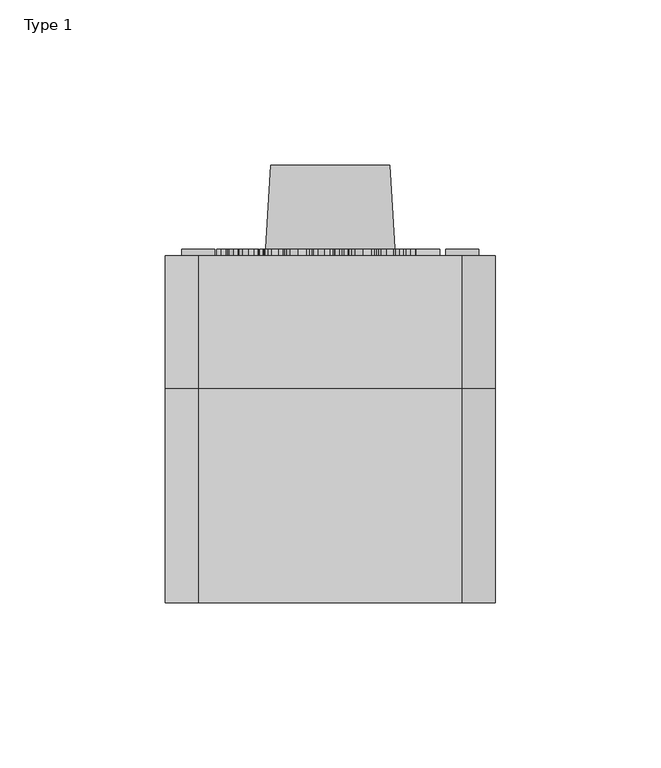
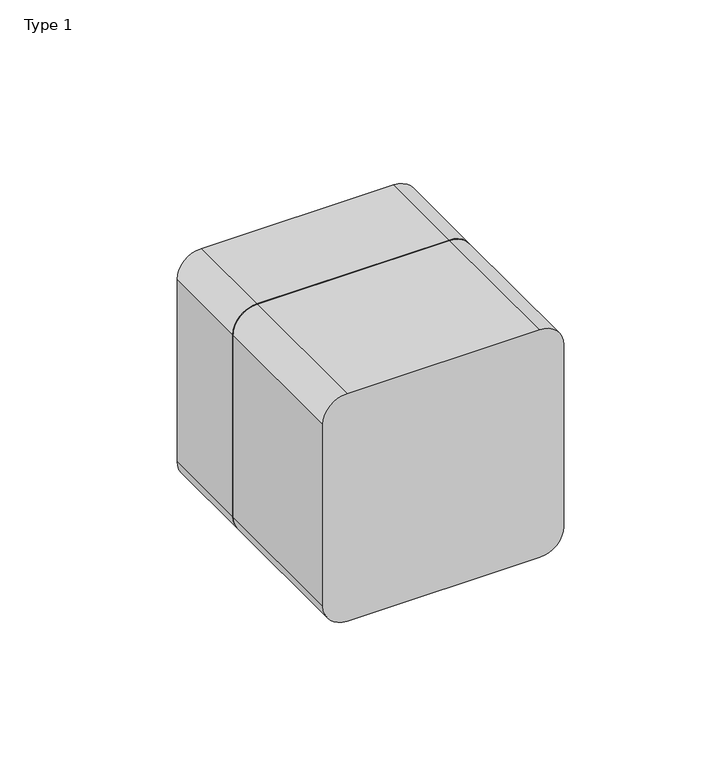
"""IFC4 building model written with IfcOpenShell, lengths in millimetres: proxy geometry, BIMHealth-Electrical-Emergency_Button-LOD2A-v1 : Type 1."""

from ifc_helpers import new_model, si_unit, point, frame, frame_2d, origin, place, context, project, spatial, polyline, circle_curve, trimmed, segment, composite_curve, outline, extrude, source, transform, mapped, element, save
from ifc_brep_helpers import plane_surface, revolved_surface, advanced_brep


def type_1_71104b44(model_context):
    return source(origin(), model_context, "Body", "SolidModel", [
        extrude(outline(polyline([(1283.4038462, 158.1553492), (1293.25, 158.1553492), (1293.25, 151.0784261), (1292.0192308, 151.0784261), (1292.0192308, 156.92458), (1289.0961538, 156.92458), (1289.0961538, 151.3861184), (1287.8653846, 151.3861184), (1287.8653846, 156.92458), (1284.6346154, 156.92458), (1284.6346154, 150.92458), (1283.4038462, 150.92458), (1283.4038462, 158.1553492)])), frame((0.0, 155.0, 0.0), z_axis=(0.0, 1.0, 0.0), x_axis=(0.0, 0.0, 1.0)), (0.0, 0.0, 1.0), 2.0),
        extrude(outline(polyline([(1283.4038462, 149.2322723), (1290.6346154, 149.2322723), (1290.6346154, 148.001503), (1289.4447115, 148.001503), (1290.4194712, 147.1553492), (1290.7884615, 145.9510223), (1290.4122596, 144.7178492), (1289.3581731, 144.0399646), (1290.7884615, 141.8668877), (1290.1935096, 140.2575127), (1288.3605769, 139.6938107), (1283.4038462, 139.6938107), (1283.4038462, 140.92458), (1287.8317308, 140.92458), (1288.859375, 141.0387627), (1289.0649038, 143.3656857), (1287.4855769, 143.8476569), (1283.4038462, 143.8476569), (1283.4038462, 145.0784261), (1287.96875, 145.0784261), (1289.1610577, 145.3632819), (1289.5576923, 146.2971761), (1289.2932692, 147.2082338), (1288.5192308, 147.814003), (1287.0504808, 148.001503), (1283.4038462, 148.001503), (1283.4038462, 149.2322723)])), frame((0.0, 155.0, 0.0), z_axis=(0.0, 1.0, 0.0), x_axis=(0.0, 0.0, 1.0)), (0.0, 0.0, 1.0), 2.0),
        extrude(outline(polyline([(1285.5576923, 132.7851569), (1285.4038462, 131.5784261), (1283.8149038, 132.7070319), (1283.25, 134.8091953), (1284.2247596, 137.3644838), (1286.9591346, 138.3091953), (1289.7836538, 137.3548684), (1290.7884615, 134.8789069), (1289.7860577, 132.4738588), (1286.9663462, 131.5399646), (1286.6346154, 137.0784261), (1285.0360577, 136.3704934), (1284.4807692, 134.7851569), (1284.7379808, 133.5784261), (1285.5576923, 132.7851569)]), holes=[polyline([(1287.8653846, 137.0784261), (1287.8653846, 132.7707338), (1288.9807692, 133.2635223), (1289.5576923, 134.8837146), (1289.0973558, 136.3993396), (1287.8653846, 137.0784261)])]), frame((0.0, 155.0, 0.0), z_axis=(0.0, 1.0, 0.0), x_axis=(0.0, 0.0, 1.0)), (0.0, 0.0, 1.0), 2.0),
        extrude(outline(polyline([(1283.4038462, 130.3091953), (1290.6346154, 130.3091953), (1290.6346154, 129.2322723), (1289.5649038, 129.2322723), (1290.5504808, 128.4678492), (1290.7884615, 127.6986184), (1290.4086538, 126.4630415), (1289.3052885, 126.8740992), (1289.5576923, 127.7394838), (1288.6418269, 128.8789069), (1287.2043269, 129.0784261), (1283.4038462, 129.0784261), (1283.4038462, 130.3091953)])), frame((0.0, 155.0, 0.0), z_axis=(0.0, 1.0, 0.0), x_axis=(0.0, 0.0, 1.0)), (0.0, 0.0, 1.0), 2.0),
        extrude(outline(polyline([(1282.7884615, 126.001503), (1282.6346154, 124.7707338), (1281.7115385, 123.1769838), (1282.0216346, 121.9173684), (1282.8918269, 121.3164069), (1284.3269231, 121.2322723), (1283.4038462, 123.1553492), (1284.4783654, 125.3704934), (1287.0552885, 126.1553492), (1288.9627404, 125.8031857), (1290.3125, 124.783955), (1290.7884615, 123.2154453), (1289.7115385, 121.2322723), (1290.6346154, 121.2322723), (1290.6346154, 120.001503), (1284.3918269, 120.001503), (1282.0012019, 120.3380415), (1280.8894231, 121.4041473), (1280.4807692, 123.2010223), (1281.0564904, 125.2478973), (1282.7884615, 126.001503)]), holes=[polyline([(1287.1394231, 124.92458), (1285.234375, 124.3993396), (1284.6346154, 123.08083), (1285.2307692, 121.7647242), (1287.1033654, 121.2322723), (1288.9387019, 121.7803492), (1289.5576923, 123.1000607), (1288.9483173, 124.392128), (1287.1394231, 124.92458)])]), frame((0.0, 155.0, 0.0), z_axis=(0.0, 1.0, 0.0), x_axis=(0.0, 0.0, 1.0)), (0.0, 0.0, 1.0), 2.0),
        extrude(outline(polyline([(1285.5576923, 113.0928492), (1285.4038462, 111.8861184), (1283.8149038, 113.0147242), (1283.25, 115.1168877), (1284.2247596, 117.6721761), (1286.9591346, 118.6168877), (1289.7836538, 117.6625607), (1290.7884615, 115.1865992), (1289.7860577, 112.7815511), (1286.9663462, 111.8476569), (1286.6346154, 117.3861184), (1285.0360577, 116.6781857), (1284.4807692, 115.0928492), (1284.7379808, 113.8861184), (1285.5576923, 113.0928492)]), holes=[polyline([(1287.8653846, 117.3861184), (1287.8653846, 113.0784261), (1288.9807692, 113.5712146), (1289.5576923, 115.1914069), (1289.0973558, 116.7070319), (1287.8653846, 117.3861184)])]), frame((0.0, 155.0, 0.0), z_axis=(0.0, 1.0, 0.0), x_axis=(0.0, 0.0, 1.0)), (0.0, 0.0, 1.0), 2.0),
        extrude(outline(polyline([(1283.4038462, 110.6168877), (1290.6346154, 110.6168877), (1290.6346154, 109.3861184), (1289.625, 109.3861184), (1290.7884615, 107.1601569), (1290.5540865, 105.9978973), (1289.9387019, 105.204628), (1289.0336538, 104.8356377), (1287.84375, 104.7707338), (1283.4038462, 104.7707338), (1283.4038462, 106.001503), (1287.6778846, 106.001503), (1288.7668269, 106.14333), (1289.5576923, 107.4894838), (1289.0745192, 108.8248203), (1287.2403846, 109.3861184), (1283.4038462, 109.3861184), (1283.4038462, 110.6168877)])), frame((0.0, 155.0, 0.0), z_axis=(0.0, 1.0, 0.0), x_axis=(0.0, 0.0, 1.0)), (0.0, 0.0, 1.0), 2.0),
        extrude(outline(polyline([(1286.0192308, 98.4630415), (1285.8653846, 97.2322723), (1283.9435096, 98.220253), (1283.25, 100.1721761), (1284.2175481, 102.5051088), (1286.9927885, 103.3861184), (1289.0372596, 103.0099165), (1290.3509615, 101.8632819), (1290.7884615, 100.189003), (1290.1875, 98.3176088), (1288.4807692, 97.3861184), (1288.3269231, 98.6168877), (1289.2487981, 99.1878011), (1289.5576923, 100.1793877), (1288.9495192, 101.6060703), (1287.0264423, 102.1553492), (1285.0853365, 101.6180896), (1284.4807692, 100.2130415), (1284.8581731, 99.0531857), (1286.0192308, 98.4630415)])), frame((0.0, 155.0, 0.0), z_axis=(0.0, 1.0, 0.0), x_axis=(0.0, 0.0, 1.0)), (0.0, 0.0, 1.0), 2.0),
        extrude(outline(polyline([(1280.5576923, 95.7791473), (1281.8197115, 96.3091953), (1283.1322115, 94.4053492), (1290.6346154, 96.92458), (1290.6346154, 95.6289069), (1286.6177885, 94.2394838), (1285.0120192, 93.7563107), (1286.4326923, 93.2731377), (1290.6346154, 91.8476569), (1290.6346154, 90.5615992), (1283.2307692, 93.0784261), (1281.625, 93.7322723), (1280.7572115, 94.4462146), (1280.5576923, 95.7791473)])), frame((0.0, 155.0, 0.0), z_axis=(0.0, 1.0, 0.0), x_axis=(0.0, 0.0, 1.0)), (0.0, 0.0, 1.0), 2.0),
        extrude(outline(polyline([(1271.25, 152.3861184), (1281.0961538, 152.3861184), (1281.0961538, 148.14333), (1280.8305288, 146.173378), (1279.890625, 145.096455), (1278.4014423, 144.6938107), (1276.6274038, 145.360878), (1275.7115385, 147.4221761), (1275.1850962, 146.7226569), (1273.9182692, 145.7250607), (1271.25, 144.0832338), (1271.25, 145.5135223), (1273.2908654, 146.7947723), (1274.6418269, 147.720253), (1275.2800481, 148.3704934), (1275.5576923, 151.1553492), (1271.25, 151.1553492), (1271.25, 152.3861184)]), holes=[polyline([(1276.7884615, 151.1553492), (1276.7884615, 148.4005415), (1276.9627404, 146.9954934), (1277.5204327, 146.1974165), (1278.3557692, 145.92458), (1279.4399038, 146.4450127), (1279.8653846, 148.0904453), (1279.8653846, 151.1553492), (1276.7884615, 151.1553492)])]), frame((0.0, 155.0, 0.0), z_axis=(0.0, 1.0, 0.0), x_axis=(0.0, 0.0, 1.0)), (0.0, 0.0, 1.0), 2.0),
        extrude(outline(polyline([(1271.25, 138.0784261), (1272.4927885, 138.0784261), (1271.0961538, 140.29958), (1271.3413462, 141.4570319), (1271.9567308, 142.2551088), (1272.8629808, 142.6216953), (1274.0072115, 142.6938107), (1278.4807692, 142.6938107), (1278.4807692, 141.4630415), (1274.5865385, 141.4630415), (1273.3317308, 141.3885223), (1272.5949519, 140.9017434), (1272.3269231, 139.9846761), (1272.6009615, 138.9570319), (1273.3473558, 138.2779453), (1274.71875, 138.0784261), (1278.4807692, 138.0784261), (1278.4807692, 136.8476569), (1271.25, 136.8476569), (1271.25, 138.0784261)])), frame((0.0, 155.0, 0.0), z_axis=(0.0, 1.0, 0.0), x_axis=(0.0, 0.0, 1.0)), (0.0, 0.0, 1.0), 2.0),
        extrude(outline(polyline([(1271.25, 135.1553492), (1278.4807692, 135.1553492), (1278.4807692, 133.92458), (1277.4711538, 133.92458), (1278.6346154, 131.6986184), (1278.4002404, 130.5363588), (1277.7848558, 129.7430896), (1276.8798077, 129.3740992), (1275.6899038, 129.3091953), (1271.25, 129.3091953), (1271.25, 130.5399646), (1275.5240385, 130.5399646), (1276.6129808, 130.6817915), (1277.4038462, 132.0279453), (1276.9206731, 133.3632819), (1275.0865385, 133.92458), (1271.25, 133.92458), (1271.25, 135.1553492)])), frame((0.0, 155.0, 0.0), z_axis=(0.0, 1.0, 0.0), x_axis=(0.0, 0.0, 1.0)), (0.0, 0.0, 1.0), 2.0),
        extrude(outline(polyline([(1271.25, 123.1553492), (1272.4110577, 123.1553492), (1271.0961538, 125.095253), (1271.5721154, 126.6192915), (1272.9002404, 127.6962146), (1274.8581731, 128.0784261), (1276.8173077, 127.7262627), (1278.1658654, 126.6709742), (1278.6346154, 125.1000607), (1278.2992788, 123.9654453), (1277.4278846, 123.1553492), (1281.0961538, 123.1553492), (1281.0961538, 121.92458), (1271.25, 121.92458), (1271.25, 123.1553492)]), holes=[polyline([(1274.8629808, 126.8476569), (1272.9579327, 126.2923684), (1272.3269231, 124.9822723), (1272.9290865, 123.6878011), (1274.7692308, 123.1553492), (1276.7668269, 123.6974165), (1277.4038462, 125.032753), (1276.7920673, 126.3284261), (1274.8629808, 126.8476569)])]), frame((0.0, 155.0, 0.0), z_axis=(0.0, 1.0, 0.0), x_axis=(0.0, 0.0, 1.0)), (0.0, 0.0, 1.0), 2.0),
        extrude(outline(polyline([(1274.8653846, 120.3861184), (1277.8341346, 119.3212146), (1278.6346154, 117.1529453), (1277.6598558, 114.8272242), (1274.9663462, 113.92458), (1272.7764423, 114.3236184), (1271.5372596, 115.485878), (1271.0961538, 117.1529453), (1272.0673077, 119.4930896), (1274.8653846, 120.3861184)]), holes=[polyline([(1274.8677885, 119.1553492), (1272.9603365, 118.5856377), (1272.3269231, 117.1529453), (1272.9639423, 115.7250607), (1274.90625, 115.1553492), (1276.7704327, 115.7286665), (1277.4038462, 117.1529453), (1276.7728365, 118.5856377), (1274.8677885, 119.1553492)])]), frame((0.0, 155.0, 0.0), z_axis=(0.0, 1.0, 0.0), x_axis=(0.0, 0.0, 1.0)), (0.0, 0.0, 1.0), 2.0),
        extrude(outline(polyline([(1271.25, 111.33083), (1278.4807692, 113.5399646), (1278.4807692, 112.2635223), (1274.2620192, 111.0135223), (1272.7548077, 110.6409261), (1274.2067308, 110.3356377), (1278.4807692, 109.3428492), (1278.4807692, 107.8813107), (1274.21875, 106.8885223), (1272.9038462, 106.6168877), (1274.2908654, 106.2274646), (1278.4807692, 104.9774646), (1278.4807692, 103.6938107), (1271.25, 105.9101569), (1271.25, 107.3957338), (1275.4903846, 108.3428492), (1276.8125, 108.6168877), (1271.25, 109.8356377), (1271.25, 111.33083)])), frame((0.0, 155.0, 0.0), z_axis=(0.0, 1.0, 0.0), x_axis=(0.0, 0.0, 1.0)), (0.0, 0.0, 1.0), 2.0),
        extrude(outline(polyline([(1271.25, 102.8476569), (1278.4807692, 102.8476569), (1278.4807692, 101.6168877), (1277.4711538, 101.6168877), (1278.6346154, 99.3909261), (1278.4002404, 98.2286665), (1277.7848558, 97.4353973), (1276.8798077, 97.0664069), (1275.6899038, 97.001503), (1271.25, 97.001503), (1271.25, 98.2322723), (1275.5240385, 98.2322723), (1276.6129808, 98.3740992), (1277.4038462, 99.720253), (1276.9206731, 101.0555896), (1275.0865385, 101.6168877), (1271.25, 101.6168877), (1271.25, 102.8476569)])), frame((0.0, 155.0, 0.0), z_axis=(0.0, 1.0, 0.0), x_axis=(0.0, 0.0, 1.0)), (0.0, 0.0, 1.0), 2.0),
        advanced_brep(
        [(145.0, 150.0, 1250.0), (105.0, 150.0, 1250.0), (143.0, 182.5, 1250.0), (107.0, 182.5, 1250.0)],
        [
            (0, 1, circle_curve(frame((125.0, 150.0, 1250.0), z_axis=(0.0, -1.0, 0.0), x_axis=(1.0, 0.0, 0.0)), 20.0)),
            (1, 0, circle_curve(frame((125.0, 150.0, 1250.0), z_axis=(0.0, -1.0, 0.0), x_axis=(-1.0, 0.0, 0.0)), 20.0)),
            (2, 3, circle_curve(frame((125.0, 182.5, 1250.0), z_axis=(0.0, 1.0, 0.0), x_axis=(-1.0, 0.0, 0.0)), 18.0)),
            (3, 2, circle_curve(frame((125.0, 182.5, 1250.0), z_axis=(0.0, 1.0, 0.0), x_axis=(1.0, 0.0, 0.0)), 18.0)),
            (3, 1),
            (0, 2),
        ],
        [
            plane_surface(frame((125.0, 150.0, 1250.0), z_axis=(0.0, -1.0, 0.0), x_axis=(0.0, 0.0, 1.0))),
            plane_surface(frame((125.0, 182.5, 1250.0), z_axis=(0.0, 1.0, 0.0), x_axis=(0.0, 0.0, 1.0))),
            revolved_surface(polyline([(107.0, 182.5, 1250.0), (105.0, 150.0, 1250.0)]), (125.0, 475.0, 1250.0), (0.0, -1.0, 0.0)),
            revolved_surface(polyline([(143.0, 182.5, 1250.0), (145.0, 150.0, 1250.0)]), (125.0, 475.0, 1250.0), (0.0, -1.0, 0.0)),
        ],
        [
            (0, [[1, 2]]),
            (1, [[3, 4]]),
            (2, [[-4, 5, -1, 6]]),
            (3, [[-3, -6, -2, -5]]),
        ],
    ),
        advanced_brep(
        [(140.0, 155.0, 1210.0), (140.0, 155.0, 1250.0), (110.0, 155.0, 1250.0), (110.0, 155.0, 1210.0), (135.0, 155.0, 1215.0), (115.0, 155.0, 1215.0), (115.0, 155.0, 1225.0), (135.0, 155.0, 1225.0), (140.0, 157.5, 1210.0), (110.0, 157.5, 1210.0), (110.0, 157.5, 1250.0), (140.0, 157.5, 1250.0), (135.0, 157.5, 1215.0), (135.0, 157.5, 1225.0), (115.0, 157.5, 1225.0), (115.0, 157.5, 1215.0)],
        [
            (0, 1),
            (1, 2, circle_curve(frame((125.0, 155.0, 1250.0), z_axis=(0.0, 1.0, 0.0), x_axis=(-1.0, 0.0, 0.0)), 15.0)),
            (2, 3),
            (3, 0),
            (4, 5),
            (5, 6),
            (6, 7),
            (7, 4),
            (8, 9),
            (9, 10),
            (10, 11, circle_curve(frame((125.0, 157.5, 1250.0), z_axis=(0.0, -1.0, 0.0), x_axis=(-1.0, 0.0, 0.0)), 15.0)),
            (11, 8),
            (12, 13),
            (13, 14),
            (14, 15),
            (15, 12),
            (0, 8),
            (11, 1),
            (10, 2),
            (9, 3),
            (4, 12),
            (15, 5),
            (14, 6),
            (13, 7),
        ],
        [
            plane_surface(frame((140.0, 155.0, 1250.0), z_axis=(0.0, -1.0, 0.0), x_axis=(0.0, 0.0, 1.0))),
            plane_surface(frame((140.0, 157.5, 1250.0), z_axis=(0.0, 1.0, 0.0), x_axis=(0.0, 0.0, -1.0))),
            plane_surface(frame((140.0, 155.0, 1210.0), z_axis=(1.0, 0.0, 0.0), x_axis=(0.0, 1.0, 0.0))),
            revolved_surface(polyline([(110.0, 157.5, 1250.0), (110.0, 155.0, 1250.0)]), (125.0, 157.5, 1250.0), (0.0, 1.0, 0.0)),
            plane_surface(frame((110.0, 155.0, 1250.0), z_axis=(-1.0, 0.0, 0.0), x_axis=(0.0, 1.0, 0.0))),
            plane_surface(frame((110.0, 155.0, 1210.0), z_axis=(0.0, 0.0, -1.0), x_axis=(0.0, 1.0, 0.0))),
            plane_surface(frame((135.0, 155.0, 1215.0), z_axis=(0.0, 0.0, 1.0), x_axis=(0.0, 1.0, 0.0))),
            plane_surface(frame((115.0, 155.0, 1215.0), z_axis=(1.0, 0.0, 0.0), x_axis=(0.0, 1.0, 0.0))),
            plane_surface(frame((115.0, 155.0, 1225.0), z_axis=(0.0, 0.0, -1.0), x_axis=(0.0, 1.0, 0.0))),
            plane_surface(frame((135.0, 155.0, 1225.0), z_axis=(-1.0, 0.0, 0.0), x_axis=(0.0, 1.0, 0.0))),
        ],
        [
            (0, [[1, 2, 3, 4], [5, 6, 7, 8]]),
            (1, [[9, 10, 11, 12], [13, 14, 15, 16]]),
            (2, [[-1, 17, -12, 18]]),
            (3, [[-2, -18, -11, 19]]),
            (4, [[-3, -19, -10, 20]]),
            (5, [[-4, -20, -9, -17]]),
            (6, [[-5, 21, -16, 22]]),
            (7, [[-6, -22, -15, 23]]),
            (8, [[-7, -23, -14, 24]]),
            (9, [[-8, -24, -13, -21]]),
        ],
    ),
        extrude(outline(composite_curve([segment(trimmed(circle_curve(frame_2d((1250.0, 125.0)), 15.0), [point((1250.0, 140.0))], [point((1250.0, 110.0))], False, "CARTESIAN"), True, "CONTINUOUS"), segment(trimmed(circle_curve(frame_2d((1250.0, 125.0)), 15.0), [point((1250.0, 110.0))], [point((1250.0, 140.0))], False, "CARTESIAN"), True, "CONTINUOUS")], self_intersect=False)), frame((0.0, 155.0, 0.0), z_axis=(0.0, 1.0, 0.0), x_axis=(0.0, 0.0, 1.0)), (0.0, 0.0, 1.0), 20.0),
        extrude(outline(composite_curve([segment(trimmed(circle_curve(frame_2d((1210.0, 85.0)), 5.0), [point((1210.0, 80.0))], [point((1210.0, 90.0))], False, "CARTESIAN"), True, "CONTINUOUS"), segment(trimmed(circle_curve(frame_2d((1210.0, 85.0)), 5.0), [point((1210.0, 90.0))], [point((1210.0, 80.0))], False, "CARTESIAN"), True, "CONTINUOUS")], self_intersect=False)), frame((0.0, 155.0, 0.0), z_axis=(0.0, 1.0, 0.0), x_axis=(0.0, 0.0, 1.0)), (0.0, 0.0, 1.0), 2.0),
        extrude(outline(composite_curve([segment(trimmed(circle_curve(frame_2d((1210.0, 165.0)), 5.0), [point((1210.0, 170.0))], [point((1210.0, 160.0))], False, "CARTESIAN"), True, "CONTINUOUS"), segment(trimmed(circle_curve(frame_2d((1210.0, 165.0)), 5.0), [point((1210.0, 160.0))], [point((1210.0, 170.0))], False, "CARTESIAN"), True, "CONTINUOUS")], self_intersect=False)), frame((0.0, 155.0, 0.0), z_axis=(0.0, 1.0, 0.0), x_axis=(0.0, 0.0, 1.0)), (0.0, 0.0, 1.0), 2.0),
        extrude(outline(composite_curve([segment(trimmed(circle_curve(frame_2d((1290.0, 85.0)), 5.0), [point((1290.0, 80.0))], [point((1290.0, 90.0))], False, "CARTESIAN"), True, "CONTINUOUS"), segment(trimmed(circle_curve(frame_2d((1290.0, 85.0)), 5.0), [point((1290.0, 90.0))], [point((1290.0, 80.0))], False, "CARTESIAN"), True, "CONTINUOUS")], self_intersect=False)), frame((0.0, 155.0, 0.0), z_axis=(0.0, 1.0, 0.0), x_axis=(0.0, 0.0, 1.0)), (0.0, 0.0, 1.0), 2.0),
        extrude(outline(composite_curve([segment(trimmed(circle_curve(frame_2d((1290.0, 165.0)), 5.0), [point((1290.0, 170.0))], [point((1290.0, 160.0))], False, "CARTESIAN"), True, "CONTINUOUS"), segment(trimmed(circle_curve(frame_2d((1290.0, 165.0)), 5.0), [point((1290.0, 160.0))], [point((1290.0, 170.0))], False, "CARTESIAN"), True, "CONTINUOUS")], self_intersect=False)), frame((0.0, 155.0, 0.0), z_axis=(0.0, 1.0, 0.0), x_axis=(0.0, 0.0, 1.0)), (0.0, 0.0, 1.0), 2.0),
        extrude(outline(composite_curve([segment(trimmed(circle_curve(frame_2d((1290.0, 85.0)), 10.0), [point((1300.0, 85.0))], [point((1290.0, 75.0))], False, "CARTESIAN"), True, "CONTINUOUS"), segment(polyline([(1290.0, 75.0), (1210.0, 75.0)]), True, "CONTINUOUS"), segment(trimmed(circle_curve(frame_2d((1210.0, 85.0)), 10.0), [point((1210.0, 75.0))], [point((1200.0, 85.0))], False, "CARTESIAN"), True, "CONTINUOUS"), segment(polyline([(1200.0, 85.0), (1200.0, 165.0)]), True, "CONTINUOUS"), segment(trimmed(circle_curve(frame_2d((1210.0, 165.0)), 10.0), [point((1200.0, 165.0))], [point((1210.0, 175.0))], False, "CARTESIAN"), True, "CONTINUOUS"), segment(polyline([(1210.0, 175.0), (1290.0, 175.0)]), True, "CONTINUOUS"), segment(trimmed(circle_curve(frame_2d((1290.0, 165.0)), 10.0), [point((1290.0, 175.0))], [point((1300.0, 165.0))], False, "CARTESIAN"), True, "CONTINUOUS"), segment(polyline([(1300.0, 165.0), (1300.0, 85.0)]), True, "CONTINUOUS")], self_intersect=False)), frame((0.0, 115.0, 0.0), z_axis=(0.0, 1.0, 0.0), x_axis=(0.0, 0.0, 1.0)), (0.0, 0.0, 1.0), 40.0),
        extrude(outline(composite_curve([segment(trimmed(circle_curve(frame_2d((1290.0, 85.0)), 10.0), [point((1300.0, 85.0))], [point((1290.0, 75.0))], False, "CARTESIAN"), True, "CONTINUOUS"), segment(polyline([(1290.0, 75.0), (1210.0, 75.0)]), True, "CONTINUOUS"), segment(trimmed(circle_curve(frame_2d((1210.0, 85.0)), 10.0), [point((1210.0, 75.0))], [point((1200.0, 85.0))], False, "CARTESIAN"), True, "CONTINUOUS"), segment(polyline([(1200.0, 85.0), (1200.0, 165.0)]), True, "CONTINUOUS"), segment(trimmed(circle_curve(frame_2d((1210.0, 165.0)), 10.0), [point((1200.0, 165.0))], [point((1210.0, 175.0))], False, "CARTESIAN"), True, "CONTINUOUS"), segment(polyline([(1210.0, 175.0), (1290.0, 175.0)]), True, "CONTINUOUS"), segment(trimmed(circle_curve(frame_2d((1290.0, 165.0)), 10.0), [point((1290.0, 175.0))], [point((1300.0, 165.0))], False, "CARTESIAN"), True, "CONTINUOUS"), segment(polyline([(1300.0, 165.0), (1300.0, 85.0)]), True, "CONTINUOUS")], self_intersect=False)), frame((0.0, 50.0, 0.0), z_axis=(0.0, 1.0, 0.0), x_axis=(0.0, 0.0, 1.0)), (0.0, 0.0, 1.0), 65.0),
    ])


if __name__ == "__main__":
    model = new_model("IFC4")
    model_context = context("Model", 3, world=origin())
    ifc_project = project(units=[si_unit("LENGTHUNIT", "METRE", prefix="MILLI")], contexts=[model_context])
    site = spatial("IfcSite", under=ifc_project)
    building = spatial("IfcBuilding", under=site)
    placement = place(None, origin())
    type_1_shape = type_1_71104b44(model_context)
    element("IfcBuildingElementProxy", 1, Name="BIMHealth-Electrical-Emergency_Button-LOD2A-v1 : Type 1", ObjectType="BIMHealth-Electrical-Emergency_Button-LOD2A-v1 : Type 1", at=placement, inside=building, context=model_context, shape_type="MappedRepresentation", body=[
        mapped(type_1_shape, transform((0.0, 0.0, 0.0), x_axis=(1.0, 0.0, 0.0), y_axis=(0.0, 1.0, 0.0), z_axis=(0.0, 0.0, 1.0))),
    ])
    save(model, "model.ifc")
